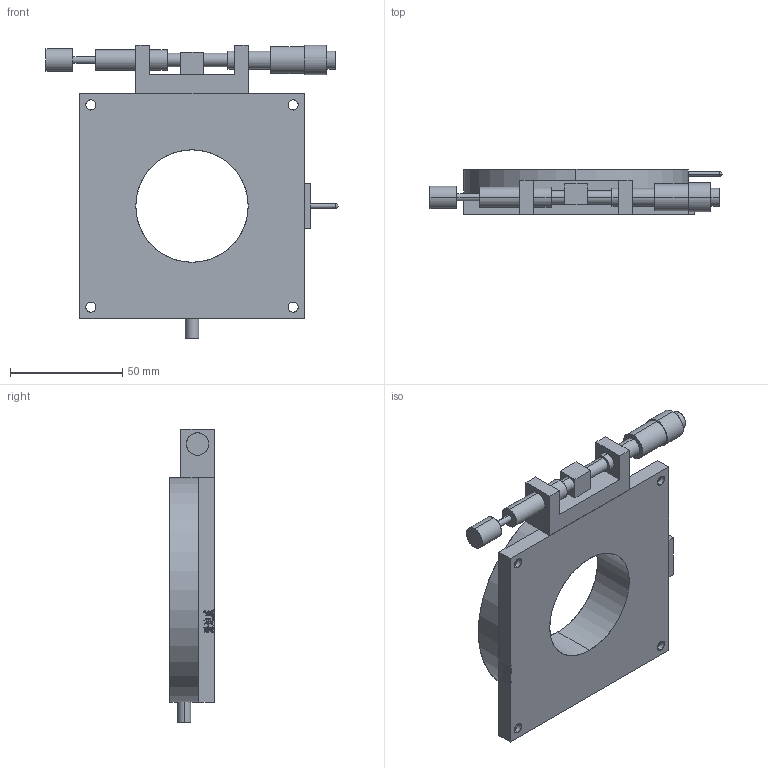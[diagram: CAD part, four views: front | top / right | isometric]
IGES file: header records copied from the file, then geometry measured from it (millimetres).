
Start section: SolidWorks IGES file using analytic representation for surfaces
Bounding box: 130 x 20 x 130.5 mm (x, y, z)
Surface area: 35753.5 mm2 (no closed solid volume)
Topology: 0 solids, 0 shells, 444 faces, 5329 edges, 5311 vertices
Faces by surface type: bspline 364, revolution 80
